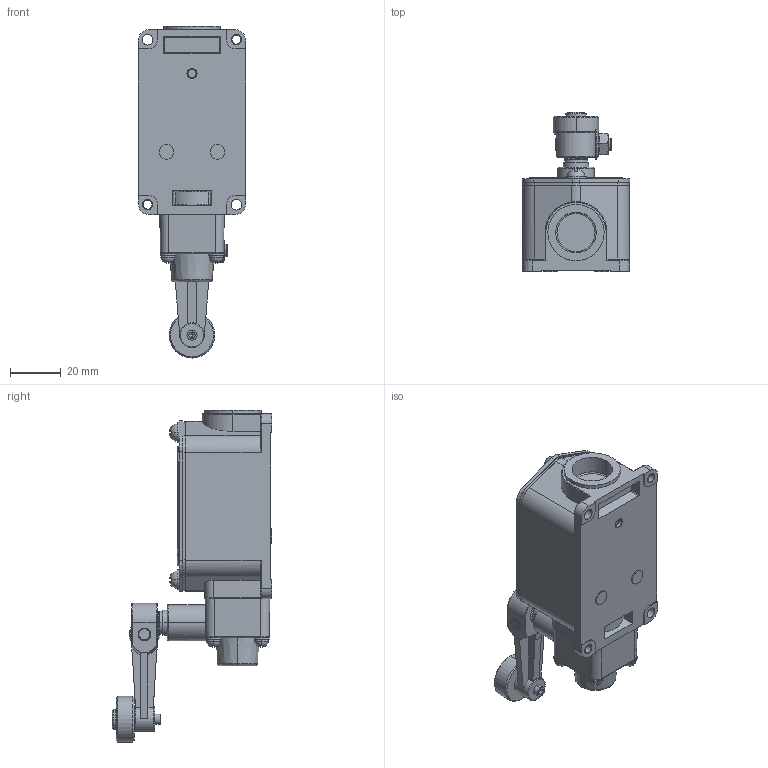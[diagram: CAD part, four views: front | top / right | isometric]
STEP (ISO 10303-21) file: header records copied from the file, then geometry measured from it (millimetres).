
FILE_DESCRIPTION((''),'2;1');
FILE_NAME('2ZTF618021_ASM','2020-12-10T',('gaodl'),(''),'CREO PARAMETRIC BY PTC INC, 2015480','CREO PARAMETRIC BY PTC INC, 2015480','');
FILE_SCHEMA(('CONFIG_CONTROL_DESIGN'));
Length unit declared in the file: millimetre
Products named in the file (1): 2ZTF618021_ASM
Bounding box: 42.4 x 62.9 x 130.8 mm (x, y, z)
Volume: 116545.1 mm3; surface area: 32218.7 mm2
Topology: 3 solids, 34 shells, 891 faces, 2374 edges, 1475 vertices
Faces by surface type: plane 417, cylinder 305, cone 70, bspline 40, torus 35, sphere 24
Entity records: 36960 total; most frequent: CARTESIAN_POINT 8473, ORIENTED_EDGE 4662, DIRECTION 4513, EDGE_CURVE 2372, AXIS2_PLACEMENT_3D 1741, VERTEX_POINT 1475, VECTOR 1031, LINE 1031
